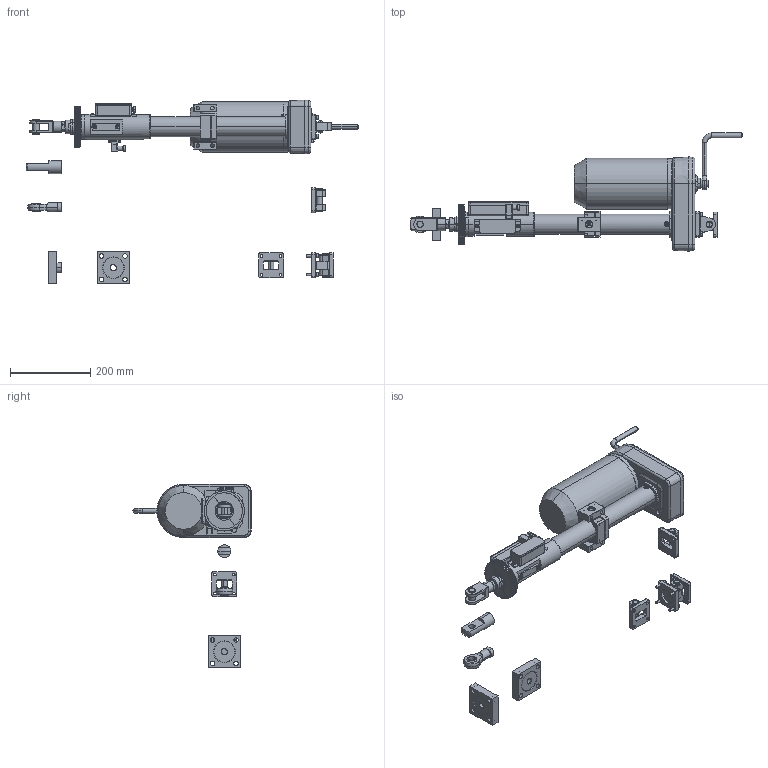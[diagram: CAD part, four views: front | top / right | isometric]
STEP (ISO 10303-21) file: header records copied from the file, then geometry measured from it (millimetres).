
FILE_DESCRIPTION (( 'STEP AP203' ), '1' );
FILE_NAME ('旆1 300.STEP', '2016-12-15T06:44:46', ( '' ), ( '' ), 'SwSTEP 2.0', 'SolidWorks 2012', '' );
FILE_SCHEMA (( 'CONFIG_CONTROL_DESIGN' ));
Length unit declared in the file: millimetre
Products named in the file (21): 旆1 300; 秮鶋趌300; 憵儴樇罻; ãàéêà äâîéíàÿ; 濱憤､ 300; 苂; ﾍ瑕 ﾑ1; Âòóëêà ñ ÄÂ; 笭; 抌暊; 俵; 眧; 畟; 眐; Ãîôð ñ1 200; 邴; ÍÔ_Œ16å1.5; îñü ôëàíöà_Œ16å1.5; 鐏鳧氀 縺膰翴籦鴀趌80; 迕_063; 迍_TI D50
Assembly tree (21 placements, depth 3):
  旆1 300
    迍_TI D50
    迕_063
    ÍÔ_Œ16å1.5
      鐏鳧氀 縺膰翴籦鴀趌80
      îñü ôëàíöà_Œ16å1.5
    邴
    Ãîôð ñ1 200
    眐
    畟  x2
    眧
    俵
    抌暊
    笭
    Âòóëêà ñ ÄÂ
    ﾍ瑕 ﾑ1
    苂
    秮鶋趌300
      濱憤､ 300
      ãàéêà äâîéíàÿ
      憵儴樇罻
Bounding box: 825 x 293.4 x 456.4 mm (x, y, z)
Volume: 515067.8 mm3; surface area: 854663.8 mm2
Topology: 10 solids, 150 shells, 2100 faces, 5667 edges, 3827 vertices
Faces by surface type: cylinder 880, plane 793, cone 232, torus 132, bspline 42, sphere 21
Entity records: 67158 total; most frequent: CARTESIAN_POINT 15204, DIRECTION 11164, ORIENTED_EDGE 9276, EDGE_CURVE 5237, AXIS2_PLACEMENT_3D 4466, VERTEX_POINT 3552, CIRCLE 2525, EDGE_LOOP 2330
